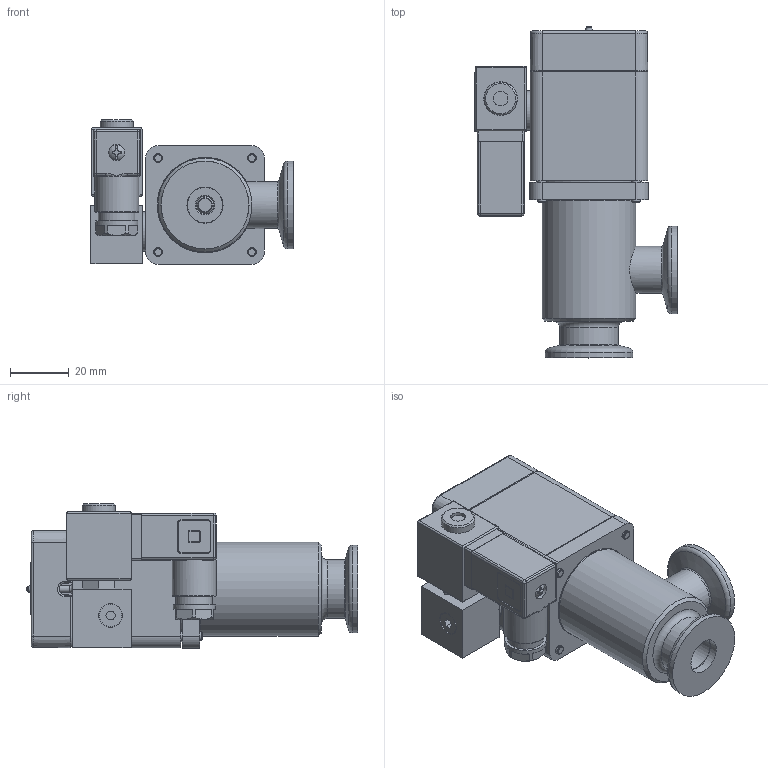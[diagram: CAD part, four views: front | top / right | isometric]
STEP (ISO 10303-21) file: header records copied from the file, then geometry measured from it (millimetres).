
FILE_DESCRIPTION(/* description */ (''),/* implementation_level */ '2;1');
FILE_NAME(/* name */ '1099046082_203.stp',/* time_stamp */ '2013-09-18T07:24:13+02:00',/* author */ (''),/* organization */ (''),/* preprocessor_version */ 'ST-DEVELOPER v11',/* originating_system */ 'SIEMENS PLM Software NX 7.5',/* authorisation */ '');
FILE_SCHEMA (('AP203_CONFIGURATION_CONTROLLED_3D_DESIGN_OF_MECHANICAL_PARTS_AND_ASSEMBLIES_MIM_LF'));
Length unit declared in the file: millimetre
Products named in the file (16): 467882; 437235; 244091.2; 233364; 236204_1.1; 346126.1; 245708.5; 346129.1; 244168.6; 243880.7; 244224.1; n-8501-400.2_MODELNX-ARRAGMNTArrangement 1; 443457; 239982.4; 346132.2; 710033
Assembly tree (19 placements, depth 4):
  710033
    346132.2
      346129.1
      245708.5
      346126.1
    244224.1  x4
    243880.7
    244168.6
    239982.4
      236204_1.1  x2
      233364
    443457
      244091.2
      n-8501-400.2_MODELNX-ARRAGMNTArrangement 1
        437235
        467882
Bounding box: 68.85 x 113.1 x 49.3 mm (x, y, z)
Volume: 93311 mm3; surface area: 61456.9 mm2
Topology: 24 solids, 25 shells, 765 faces, 1874 edges, 1218 vertices
Faces by surface type: plane 442, cylinder 184, cone 89, bspline 28, torus 17, sphere 5
Full cylindrical faces by diameter (mm): 2 x2, 2.3 x1, 2.36 x4, 2.4 x4, 2.5 x6, 2.8 x1, 3 x20, 3.4 x4, 4 x2, 4.2 x1, 4.22 x1, 4.7 x3, 4.8 x1, 5 x5, 5.5 x5, 5.6 x2, 6 x4, 6.013 x2, 6.5 x4, 7.4 x1, 7.6 x1, 7.9 x1, 8 x1, 8.85 x1, 10.2 x1, 11.3 x1, 11.4 x1, 11.5 x1, 12 x3, 12.3 x2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
Entity records: 24096 total; most frequent: CARTESIAN_POINT 5043, DIRECTION 3280, ORIENTED_EDGE 3032, EDGE_CURVE 1516, AXIS2_PLACEMENT_3D 1182, VERTEX_POINT 1090, EDGE_LOOP 971, LINE 916
